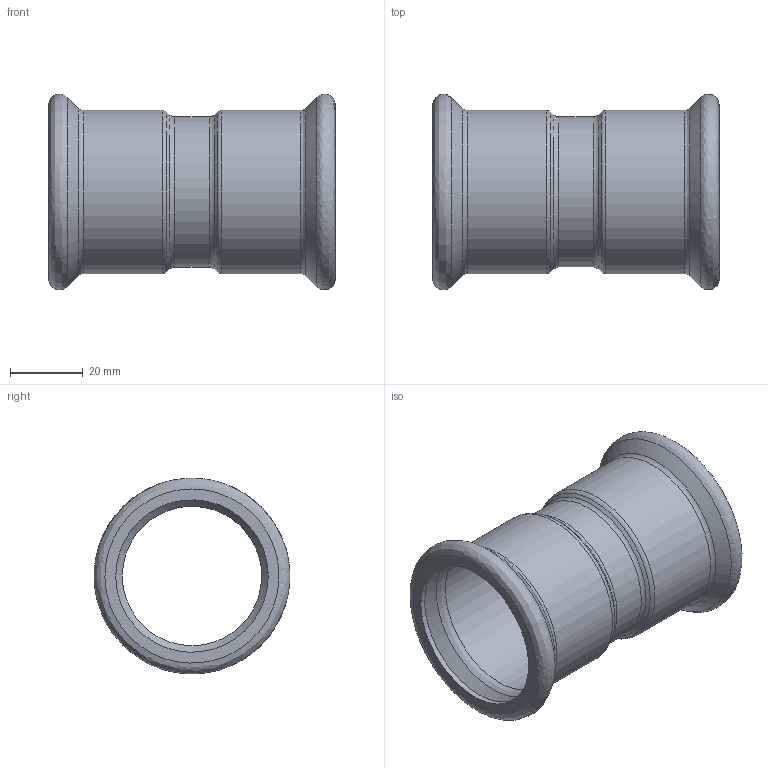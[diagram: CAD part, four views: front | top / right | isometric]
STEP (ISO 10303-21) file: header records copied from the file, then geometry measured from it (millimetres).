
FILE_DESCRIPTION(('FreeCAD Model'),'2;1');
FILE_NAME('Open CASCADE Shape Model','2025-10-20T15:02:38',('Author'),( ''),'Open CASCADE STEP processor 7.8','FreeCAD','Unknown');
FILE_SCHEMA(('AUTOMOTIVE_DESIGN { 1 0 10303 214 1 1 1 1 }'));
Length unit declared in the file: millimetre
Products named in the file (1): Solido1
Bounding box: 79 x 54 x 53.98 mm (x, y, z)
Volume: 18730.9 mm3; surface area: 25709.5 mm2
Topology: 1 solids, 1 shells, 32 faces, 114 edges, 86 vertices
Faces by surface type: bspline 32
Entity records: 1801 total; most frequent: CARTESIAN_POINT 1205, ORIENTED_EDGE 228, EDGE_CURVE 114, VERTEX_POINT 86, FACE_BOUND 36, EDGE_LOOP 36, ADVANCED_FACE 32, B_SPLINE_CURVE_WITH_KNOTS 16
